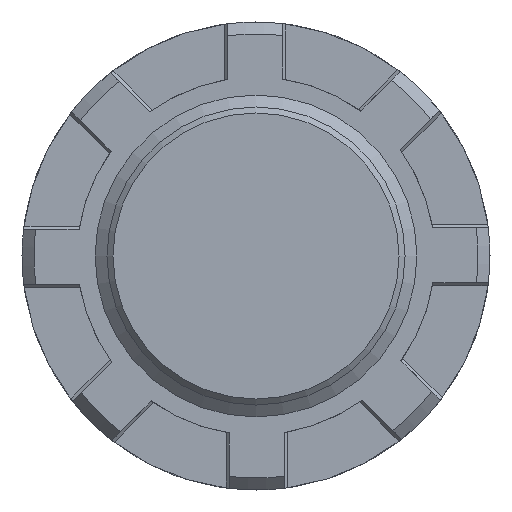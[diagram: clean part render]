
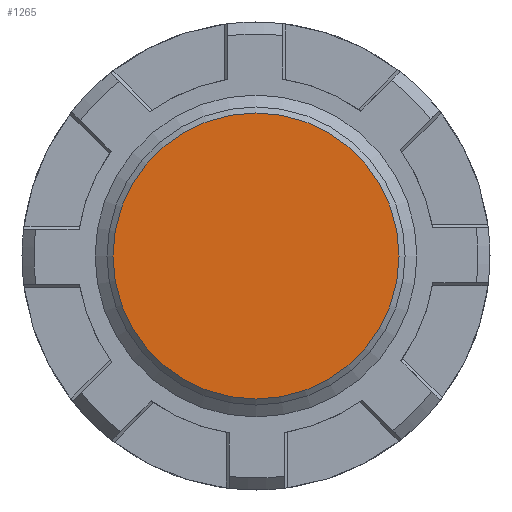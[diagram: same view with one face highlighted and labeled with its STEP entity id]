
A CAD part, front view. The second image highlights one B-rep face of the part: STEP entity #1265.
In plain terms, the highlighted planar face has unit normal (0, -1, 0).
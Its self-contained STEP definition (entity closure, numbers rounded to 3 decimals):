
#83=CIRCLE('',#1430,4.8);
#172=FACE_OUTER_BOUND('',#241,.T.);
#241=EDGE_LOOP('',(#1068));
#572=VERTEX_POINT('',#2236);
#756=EDGE_CURVE('',#572,#572,#83,.T.);
#1068=ORIENTED_EDGE('',*,*,#756,.F.);
#1206=PLANE('',#1433);
#1265=ADVANCED_FACE('',(#172),#1206,.T.);
#1430=AXIS2_PLACEMENT_3D('',#2237,#1801,#1802);
#1433=AXIS2_PLACEMENT_3D('',#2243,#1808,#1809);
#1801=DIRECTION('center_axis',(0.,1.,0.));
#1802=DIRECTION('ref_axis',(-1.,0.,0.));
#1808=DIRECTION('center_axis',(0.,-1.,0.));
#1809=DIRECTION('ref_axis',(0.,0.,-1.));
#2236=CARTESIAN_POINT('',(4.8,0.,0.));
#2237=CARTESIAN_POINT('Origin',(0.,0.,0.));
#2243=CARTESIAN_POINT('Origin',(0.,0.,0.));
